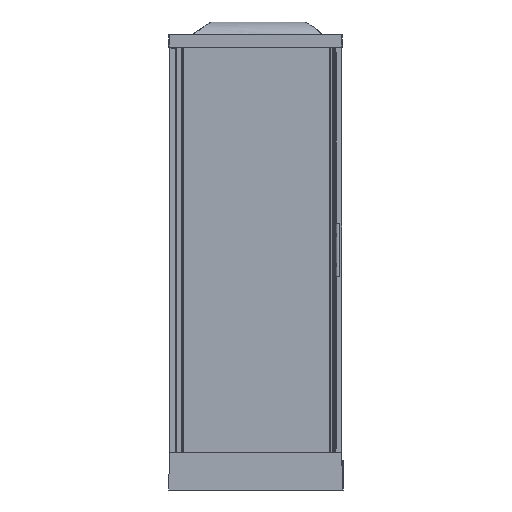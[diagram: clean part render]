
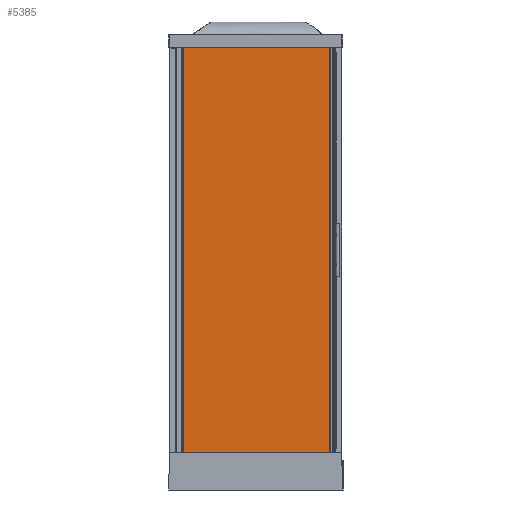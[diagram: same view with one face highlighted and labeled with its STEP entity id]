
A CAD part, left-side view. The second image highlights one B-rep face of the part: STEP entity #5385.
In plain terms, the highlighted planar face has unit normal (-1, 0, 0).
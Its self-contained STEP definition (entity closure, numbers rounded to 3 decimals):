
#5306=CARTESIAN_POINT('',(-1163.29,-58.545,164.561));
#5307=VERTEX_POINT('',#5306);
#5314=CARTESIAN_POINT('',(-1163.29,-58.545,2061.561));
#5315=VERTEX_POINT('',#5314);
#5316=CARTESIAN_POINT('',(-1163.29,-58.545,2061.561));
#5317=DIRECTION('',(0.0,0.0,-1.0));
#5318=VECTOR('',#5317,1897.0);
#5319=LINE('',#5316,#5318);
#5320=EDGE_CURVE('',#5315,#5307,#5319,.T.);
#5345=CARTESIAN_POINT('',(-1163.29,-751.545,164.561));
#5346=VERTEX_POINT('',#5345);
#5353=CARTESIAN_POINT('',(-1163.29,-58.545,164.561));
#5354=DIRECTION('',(0.0,-1.0,0.0));
#5355=VECTOR('',#5354,693.);
#5356=LINE('',#5353,#5355);
#5357=EDGE_CURVE('',#5307,#5346,#5356,.T.);
#5362=CARTESIAN_POINT('',(-1163.29,-28.895,69.711));
#5363=DIRECTION('',(-1.0,0.0,0.0));
#5364=DIRECTION('',(0.0,-1.0,0.0));
#5365=AXIS2_PLACEMENT_3D('',#5362,#5363,#5364);
#5366=PLANE('',#5365);
#5367=CARTESIAN_POINT('',(-1163.29,-751.545,2061.561));
#5368=VERTEX_POINT('',#5367);
#5369=CARTESIAN_POINT('',(-1163.29,-58.545,2061.561));
#5370=DIRECTION('',(0.0,-1.0,0.0));
#5371=VECTOR('',#5370,693.);
#5372=LINE('',#5369,#5371);
#5373=EDGE_CURVE('',#5315,#5368,#5372,.T.);
#5374=ORIENTED_EDGE('',*,*,#5373,.F.);
#5375=ORIENTED_EDGE('',*,*,#5320,.T.);
#5376=ORIENTED_EDGE('',*,*,#5357,.T.);
#5377=CARTESIAN_POINT('',(-1163.29,-751.545,164.561));
#5378=DIRECTION('',(0.0,0.0,1.0));
#5379=VECTOR('',#5378,1897.0);
#5380=LINE('',#5377,#5379);
#5381=EDGE_CURVE('',#5346,#5368,#5380,.T.);
#5382=ORIENTED_EDGE('',*,*,#5381,.T.);
#5383=EDGE_LOOP('',(#5374,#5375,#5376,#5382));
#5384=FACE_OUTER_BOUND('',#5383,.T.);
#5385=ADVANCED_FACE('',(#5384),#5366,.T.);
